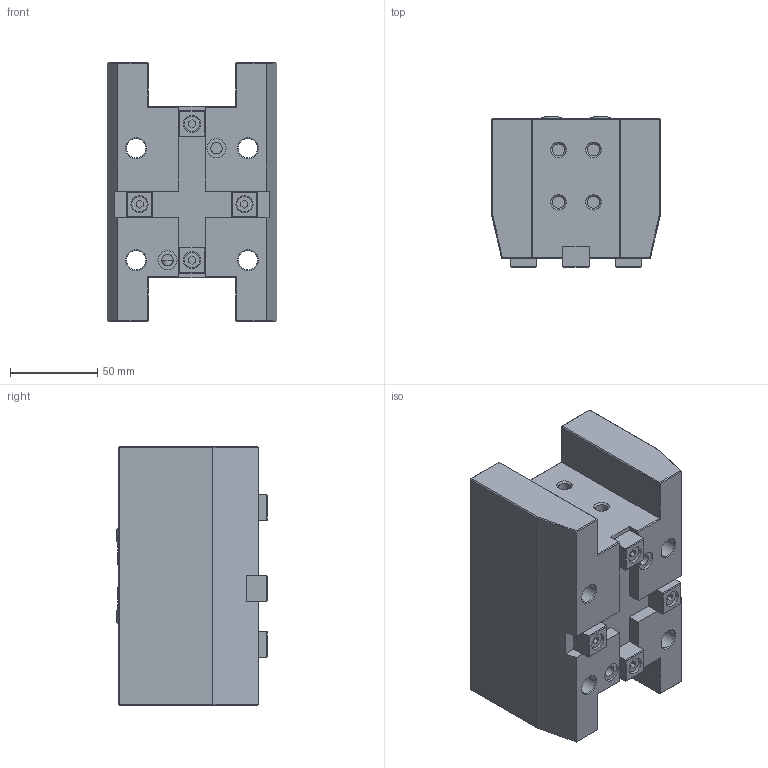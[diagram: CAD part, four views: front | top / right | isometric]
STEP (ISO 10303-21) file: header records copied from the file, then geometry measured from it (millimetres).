
FILE_DESCRIPTION(/* description */ (''),/* implementation_level */ '2;1');
FILE_NAME(/* name */ 'BMT55-SC25x80.stp',/* time_stamp */ '2025-06-18T15:40:38+03:00',/* author */ ('User'),/* organization */ (''),/* preprocessor_version */ 'ST-DEVELOPER v19.2',/* originating_system */ 'Autodesk Inventor 2024',/* authorisation */ '');
FILE_SCHEMA (('AUTOMOTIVE_DESIGN { 1 0 10303 214 3 1 1 }'));
Length unit declared in the file: millimetre
Products named in the file (1): Держатель токарного 
инструмента BMT55-C8025 , стационарный,
 наружный, радиальный
Bounding box: 97 x 86 x 148 mm (x, y, z)
Volume: 863487.9 mm3; surface area: 97601.6 mm2
Topology: 1 solids, 1 shells, 320 faces, 749 edges, 468 vertices
Faces by surface type: plane 244, cylinder 56, cone 16, torus 4
Full cylindrical faces by diameter (mm): 5.4 x4, 6.5 x2, 6.8 x8, 7.3 x2, 7.5 x2, 8.8 x4, 9.8 x4, 11 x10, 11.5 x4, 12 x4, 18 x4
Entity records: 9597 total; most frequent: CARTESIAN_POINT 1708, DIRECTION 1587, ORIENTED_EDGE 1498, EDGE_CURVE 749, AXIS2_PLACEMENT_3D 535, LINE 517, VECTOR 517, VERTEX_POINT 468
